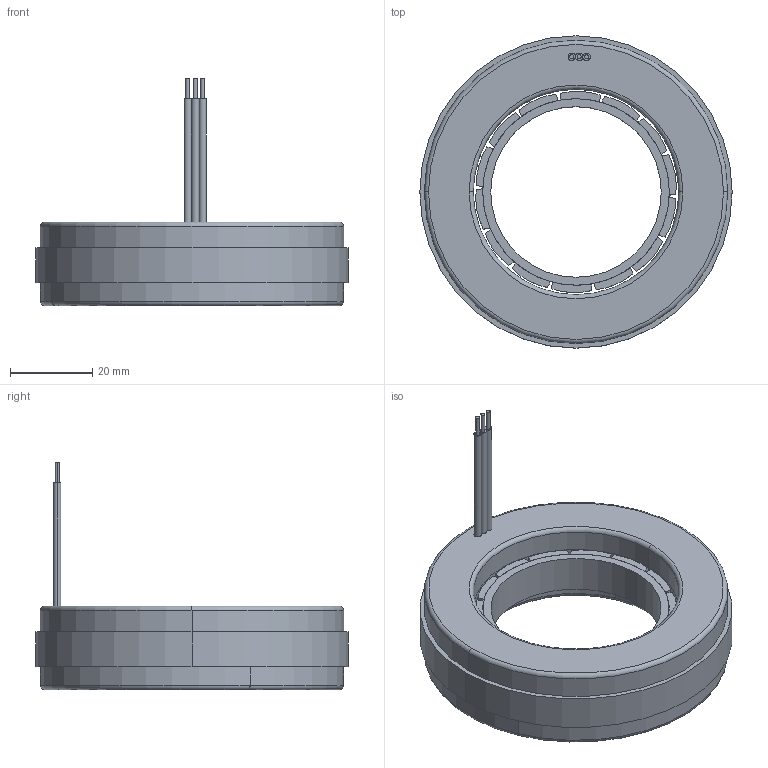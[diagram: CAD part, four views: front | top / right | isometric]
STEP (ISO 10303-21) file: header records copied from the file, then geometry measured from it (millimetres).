
FILE_DESCRIPTION (( 'STEP AP203' ), '1' );
FILE_NAME ('76LW07×°Åä.STEP', '2025-09-04T02:57:50', ( 'China' ), ( 'Microsoft' ), 'SwSTEP 2.0', 'SolidWorks 2017', '' );
FILE_SCHEMA (( 'CONFIG_CONTROL_DESIGN' ));
Length unit declared in the file: millimetre
Products named in the file (9): 蛌赽; 76LW07蚾饜; 諾陑粣; 隅赽; 绕组端部; 绕组端部2; 隅赽沺陑; 棠詩; 竘堤盄
Assembly tree (21 placements, depth 3):
  76LW07蚾饜
    隅赽
      隅赽沺陑
      绕组端部
      竘堤盄
      绕组端部2
    蛌赽
      諾陑粣
      棠詩  x14
Bounding box: 76 x 76 x 55.3 mm (x, y, z)
Volume: 53832.1 mm3; surface area: 29000.3 mm2
Topology: 21 solids, 21 shells, 137 faces, 268 edges, 176 vertices
Faces by surface type: plane 73, cylinder 56, torus 8
Entity records: 2913 total; most frequent: DIRECTION 358, CARTESIAN_POINT 269, ORIENTED_EDGE 224, AXIS2_PLACEMENT_3D 161, EDGE_CURVE 112, PERSON_AND_ORGANIZATION 93, DATE_AND_TIME 87, CALENDAR_DATE 87
